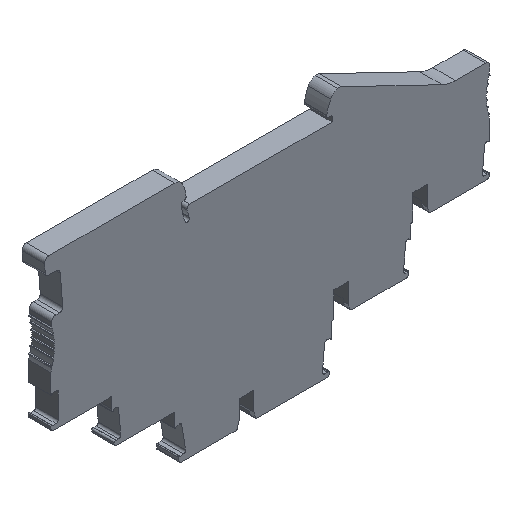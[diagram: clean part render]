
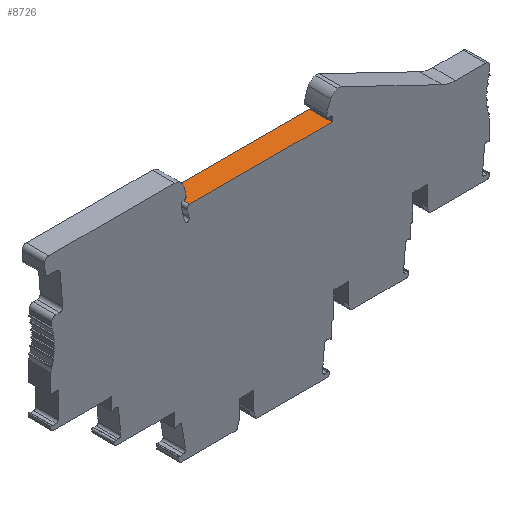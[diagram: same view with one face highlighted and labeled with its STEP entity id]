
A CAD part, isometric view. The second image highlights one B-rep face of the part: STEP entity #8726.
In plain terms, the highlighted planar face has unit normal (0, 0, 1).
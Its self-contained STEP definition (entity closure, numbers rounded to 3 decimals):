
#845=FACE_OUTER_BOUND('',#1277,.T.);
#1277=EDGE_LOOP('',(#6557,#6558,#6559,#6560));
#1751=LINE('',#12344,#2789);
#1884=LINE('',#12801,#2922);
#1996=LINE('',#13149,#3034);
#1997=LINE('',#13151,#3035);
#2789=VECTOR('',#9967,32.831);
#2922=VECTOR('',#10288,32.831);
#3034=VECTOR('',#10592,5.18);
#3035=VECTOR('',#10595,5.18);
#3806=VERTEX_POINT('',#12341);
#3807=VERTEX_POINT('',#12343);
#4028=VERTEX_POINT('',#12798);
#4029=VERTEX_POINT('',#12800);
#4679=EDGE_CURVE('',#3806,#3807,#1751,.T.);
#4905=EDGE_CURVE('',#4029,#4028,#1884,.T.);
#5075=EDGE_CURVE('',#3807,#4028,#1996,.T.);
#5076=EDGE_CURVE('',#3806,#4029,#1997,.T.);
#6557=ORIENTED_EDGE('',*,*,#5076,.T.);
#6558=ORIENTED_EDGE('',*,*,#4905,.T.);
#6559=ORIENTED_EDGE('',*,*,#5075,.F.);
#6560=ORIENTED_EDGE('',*,*,#4679,.F.);
#8376=PLANE('',#9340);
#8726=ADVANCED_FACE('',(#845),#8376,.T.);
#9340=AXIS2_PLACEMENT_3D('',#13150,#10593,#10594);
#9967=DIRECTION('',(1.,0.,0.));
#10288=DIRECTION('',(1.,0.,0.));
#10592=DIRECTION('',(0.,-1.,0.));
#10593=DIRECTION('center_axis',(0.,0.,1.));
#10594=DIRECTION('ref_axis',(1.,0.,0.));
#10595=DIRECTION('',(0.,-1.,0.));
#12341=CARTESIAN_POINT('',(-16.991,2.6,27.399));
#12343=CARTESIAN_POINT('',(15.84,2.6,27.399));
#12344=CARTESIAN_POINT('',(-16.991,2.6,27.399));
#12798=CARTESIAN_POINT('',(15.84,-2.58,27.399));
#12800=CARTESIAN_POINT('',(-16.991,-2.58,27.399));
#12801=CARTESIAN_POINT('',(-16.991,-2.58,27.399));
#13149=CARTESIAN_POINT('',(15.84,2.6,27.399));
#13150=CARTESIAN_POINT('Origin',(-17.141,-1.5,27.399));
#13151=CARTESIAN_POINT('',(-16.991,2.6,27.399));
